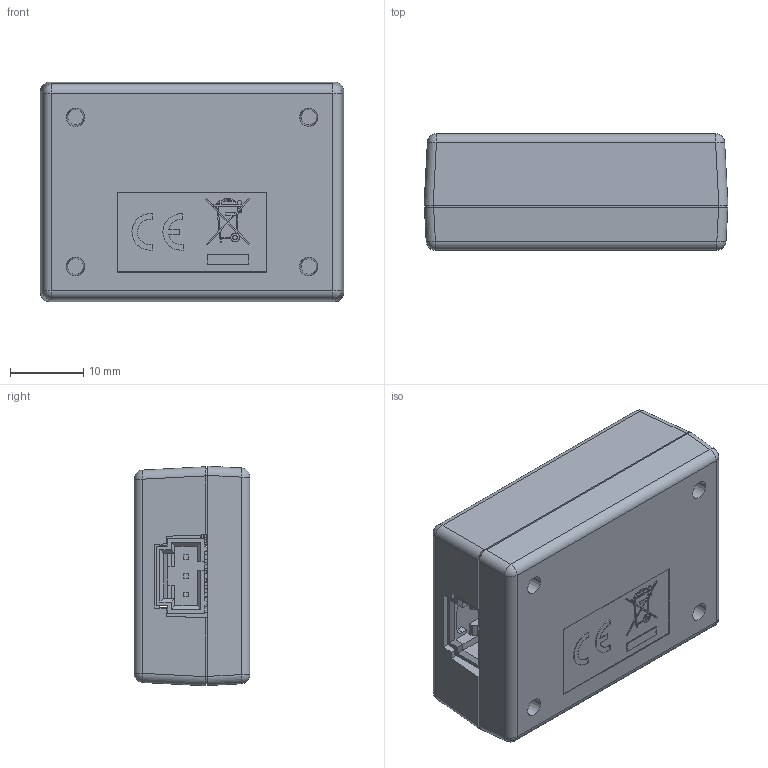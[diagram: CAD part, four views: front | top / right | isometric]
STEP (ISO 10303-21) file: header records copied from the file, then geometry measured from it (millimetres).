
FILE_DESCRIPTION(/* description */ ('Alibre Inc.'),/* implementation_level */ '2;1');
FILE_NAME(/* name */ 'export0',/* time_stamp */ '2018-08-09T09:34:36-06:00',/* author */ (''),/* organization */ (''),/* preprocessor_version */ 'ST-DEVELOPER v17',/* originating_system */ 'Alibre',/* authorisation */ '');
FILE_SCHEMA (('CONFIG_CONTROL_DESIGN'));
Length unit declared in the file: centimetre
Products named in the file (57): ID_1; ID_2; ID_3; ID_4; ID_5; ID_6; ID_7; ID_8; ID_9; ID_10; ID_11; ID_12; ID_13; ID_14; ID_15; ID_16; ID_17; ID_18; ID_19; ID_20; ID_21; ID_22; ID_23
Bounding box: 41.36 x 15.78 x 29.88 mm (x, y, z)
Volume: 8683.4 mm3; surface area: 12577.4 mm2
Topology: 45 solids, 45 shells, 1403 faces, 3697 edges, 2396 vertices
Faces by surface type: plane 1053, cylinder 285, bspline 31, cone 16, sphere 10, revolution 8
Full cylindrical faces by diameter (mm): 0.6 x2, 0.965 x3, 1.321 x2, 3.124 x4, 3.175 x4
Entity records: 45916 total; most frequent: CARTESIAN_POINT 10060, ORIENTED_EDGE 6582, DIRECTION 5086, EDGE_CURVE 3291, VECTOR 2499, LINE 2499, VERTEX_POINT 2151, AXIS2_PLACEMENT_3D 1713
